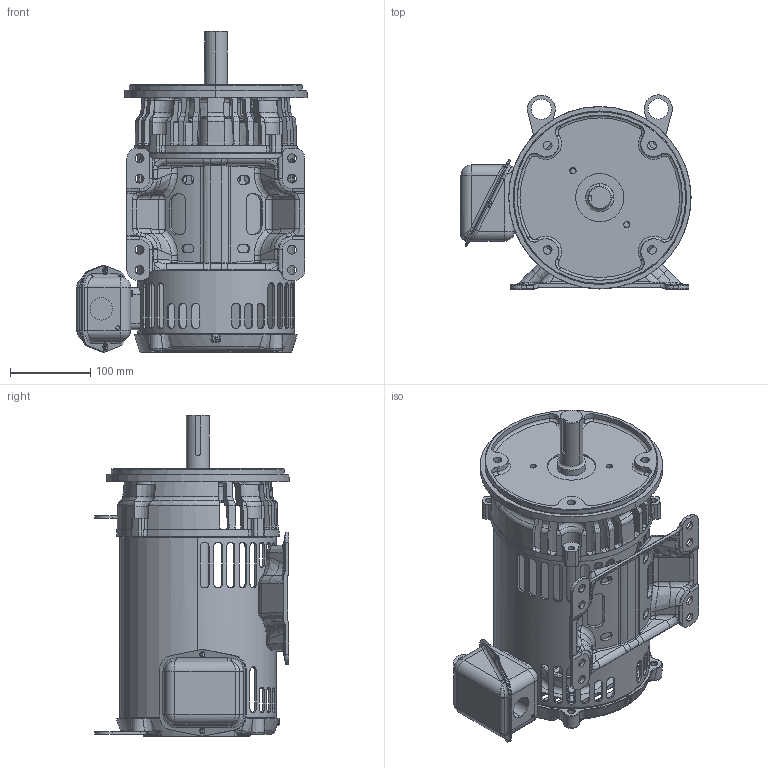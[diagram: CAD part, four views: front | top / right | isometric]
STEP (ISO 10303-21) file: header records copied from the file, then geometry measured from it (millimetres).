
FILE_DESCRIPTION((''),'2;1');
FILE_NAME('CFACE_ASM','2018-04-25T',('EMD2341'),('Nidec Motor Corporation'),'CREO PARAMETRIC BY PTC INC, 2017170','CREO PARAMETRIC BY PTC INC, 2017170','');
FILE_SCHEMA(('CONFIG_CONTROL_DESIGN'));
Length unit declared in the file: inch
Products named in the file (13): 2036936_AF0; 0379901; 0380228; 0356644; 2069261-SHA; 2026212-BKT_AF0; 2033996-002_AF0; 2026214_ASM; 0390418; 0390928; 0390417; 0362988; CFACE_ASM
Assembly tree (13 placements, depth 3):
  CFACE_ASM
    2036936_AF0
    0379901
    0380228
    0356644
    2069261-SHA
    2026214_ASM
      2026212-BKT_AF0
      2033996-002_AF0
    0390418
    0390928
    0390417
    0362988  x2
Bounding box: 287.56 x 242.53 x 401.49 mm (x, y, z)
Volume: 1871645.9 mm3; surface area: 804216.2 mm2
Topology: 14 solids, 14 shells, 2721 faces, 6889 edges, 4181 vertices
Faces by surface type: bspline 806, cylinder 691, plane 524, torus 347, cone 307, sphere 46
Entity records: 126123 total; most frequent: CARTESIAN_POINT 66813, ORIENTED_EDGE 13680, DIRECTION 10681, EDGE_CURVE 6840, AXIS2_PLACEMENT_3D 4431, VERTEX_POINT 4165, EDGE_LOOP 2941, FACE_OUTER_BOUND 2711
